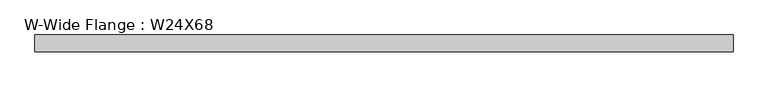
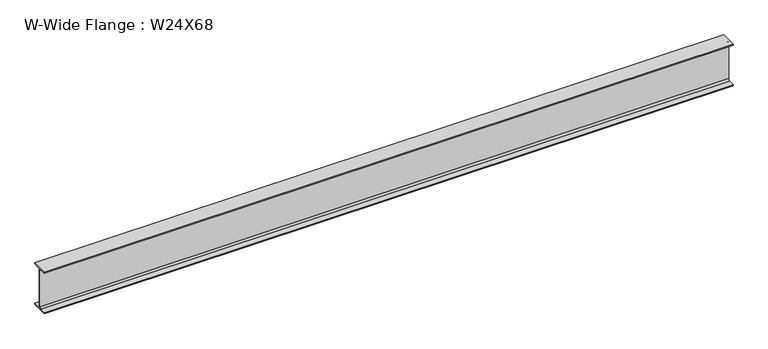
"""IFC4 building model written with IfcOpenShell, lengths in millimetres: beam geometry, W-Wide Flange : W24X68."""

from ifc_helpers import new_model, si_unit, point, frame, frame_2d, origin, place, context, project, spatial, polyline, circle_curve, trimmed, segment, composite_curve, outline, extrude, source, transform, mapped, element, save


def w_wide_flange_w24x68_78b43be5(model_context):
    return source(origin(), model_context, "Body", "SweptSolid", [
        extrude(outline(composite_curve([segment(polyline([(113.919, -286.131), (113.919, -300.99), (-113.919, -300.99), (-113.919, -286.131), (-28.5115, -286.131)]), True, "CONTINUOUS"), segment(trimmed(circle_curve(frame_2d((-28.5115, -262.89)), 23.241), [point((-28.5115, -286.131))], [point((-5.2705, -262.89))], True, "CARTESIAN"), True, "CONTINUOUS"), segment(polyline([(-5.2705, -262.89), (-5.2705, 262.89)]), True, "CONTINUOUS"), segment(trimmed(circle_curve(frame_2d((-28.5115, 262.89)), 23.241), [point((-5.2705, 262.89))], [point((-28.5115, 286.131))], True, "CARTESIAN"), True, "CONTINUOUS"), segment(polyline([(-28.5115, 286.131), (-113.919, 286.131), (-113.919, 300.99), (113.919, 300.99), (113.919, 286.131), (28.5115, 286.131)]), True, "CONTINUOUS"), segment(trimmed(circle_curve(frame_2d((28.5115, 262.89)), 23.241), [point((28.5115, 286.131))], [point((5.2705, 262.89))], True, "CARTESIAN"), True, "CONTINUOUS"), segment(polyline([(5.2705, 262.89), (5.2705, -262.89)]), True, "CONTINUOUS"), segment(trimmed(circle_curve(frame_2d((28.5115, -262.89)), 23.241), [point((5.2705, -262.89))], [point((28.5115, -286.131))], True, "CARTESIAN"), True, "CONTINUOUS"), segment(polyline([(28.5115, -286.131), (113.919, -286.131)]), True, "CONTINUOUS")], self_intersect=False)), frame((-4756.15, 0.0, 0.0), z_axis=(1.0, 0.0, 0.0), x_axis=(0.0, 1.0, 0.0)), (0.0, 0.0, 1.0), 9512.3),
    ])


if __name__ == "__main__":
    model = new_model("IFC4")
    model_context = context("Model", 3, world=origin())
    ifc_project = project(units=[si_unit("LENGTHUNIT", "METRE", prefix="MILLI")], contexts=[model_context])
    site = spatial("IfcSite", under=ifc_project)
    building = spatial("IfcBuilding", under=site)
    placement = place(None, origin())
    w_wide_flange_w24x68_shape = w_wide_flange_w24x68_78b43be5(model_context)
    element("IfcBeam", 1, ObjectType="W-Wide Flange : W24X68", at=placement, inside=building, context=model_context, shape_type="MappedRepresentation", body=[
        mapped(w_wide_flange_w24x68_shape, transform((0.0, 0.0, 0.0), x_axis=(1.0, 0.0, 0.0), y_axis=(0.0, 1.0, 0.0), z_axis=(0.0, 0.0, 1.0))),
    ])
    save(model, "model.ifc")
